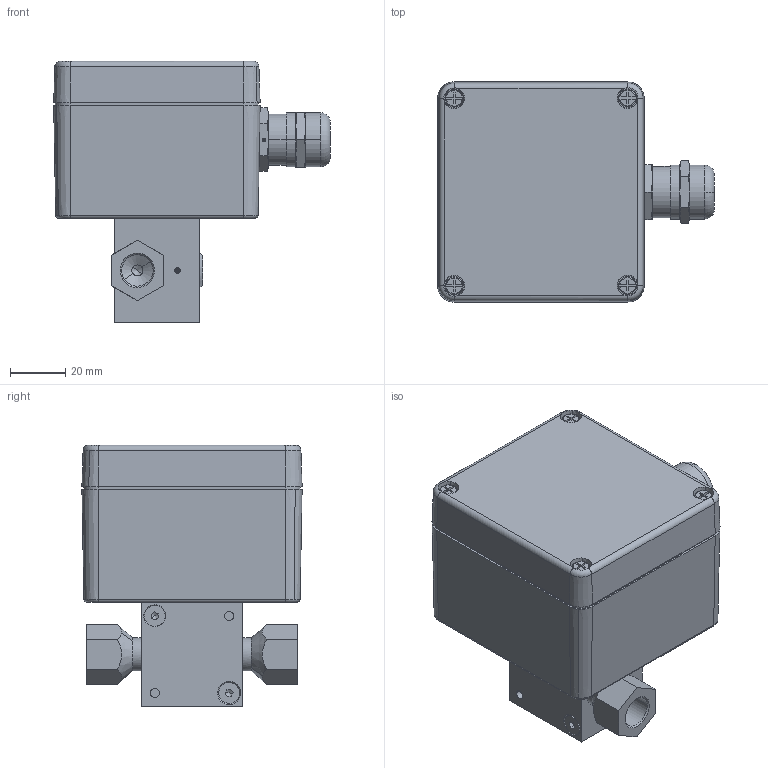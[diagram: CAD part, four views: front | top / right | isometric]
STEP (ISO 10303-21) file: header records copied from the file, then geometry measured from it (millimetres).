
FILE_DESCRIPTION(('STEP AP214'),'1');
FILE_NAME('burster_8303-5-xx_3ofsau13kzg6xmdfpya5lboq9.stp','2017-04-19T20:52:17',('TraceParts'),('TraceParts S.A.'),'Spatial InterOp 3D',' ',' ');
FILE_SCHEMA(('automotive_design'));
Length unit declared in the file: millimetre
Products named in the file (14): burster_8303-5-xx_3ofsau13kzg6xmdfpya5lboq9_1; burster_8303-5-xx_3ofsau13kzg6xmdfpya5lboq9_2; burster_8303-5-xx_3ofsau13kzg6xmdfpya5lboq9_3; burster_8303-5-xx_3ofsau13kzg6xmdfpya5lboq9_4; burster_8303-5-xx_3ofsau13kzg6xmdfpya5lboq9_5; burster_8303-5-xx_3ofsau13kzg6xmdfpya5lboq9_6; burster_8303-5-xx_3ofsau13kzg6xmdfpya5lboq9_7; burster_8303-5-xx_3ofsau13kzg6xmdfpya5lboq9_8; burster_8303-5-xx_3ofsau13kzg6xmdfpya5lboq9_9; burster_8303-5-xx_3ofsau13kzg6xmdfpya5lboq9_10; burster_8303-5-xx_3ofsau13kzg6xmdfpya5lboq9_11; burster_8303-5-xx_3ofsau13kzg6xmdfpya5lboq9_12; burster_8303-5-xx_3ofsau13kzg6xmdfpya5lboq9_13; burster_8303-5-xx_3ofsau13kzg6xmdfpya5lboq9_14
Bounding box: 100.5 x 80 x 95 mm (x, y, z)
Volume: 173059.7 mm3; surface area: 77790.6 mm2
Topology: 14 solids, 14 shells, 702 faces, 1904 edges, 1259 vertices
Faces by surface type: plane 259, cone 230, cylinder 186, torus 21, bspline 6
Entity records: 28511 total; most frequent: CARTESIAN_POINT 4524, DIRECTION 4018, ORIENTED_EDGE 3740, EDGE_CURVE 1870, AXIS2_PLACEMENT_3D 1589, VERTEX_POINT 1259, CIRCLE 867, LINE 840
